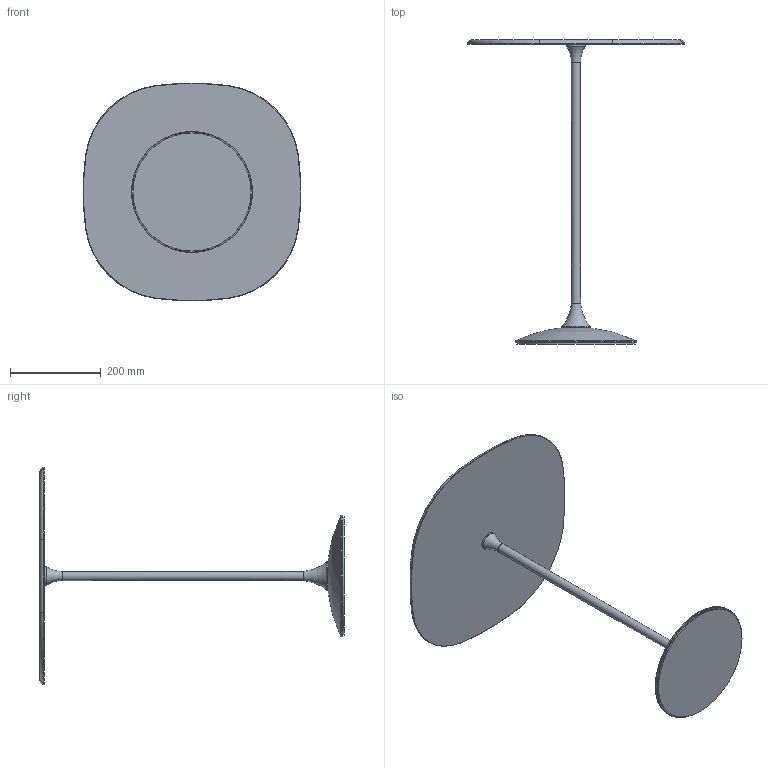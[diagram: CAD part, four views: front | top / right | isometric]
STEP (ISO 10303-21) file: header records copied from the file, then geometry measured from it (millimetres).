
FILE_DESCRIPTION((''),'2;1');
FILE_NAME('C:\AutodeskVault\AreaLavoro\Progetti\SoVeT Italia\2. Tavolini_Coffee tables\Tulip\Web file\Tulip Web\P4618.stp','2012-06-14T17:28:27',('Gianluca'),('So.Ve.T. s.r.l.'),'Autodesk Inventor 2013','Autodesk Inventor 2013','IL PROGETTO E'' DI ESCLUSIVA PROPRIETA'' DELLA SO.VE.T. srl. E'' VIETATA OGNI RIPRODUZIONE TOTALE O PARZIALE E QUALSIASI UTILIZZO NON AUTORIZZATO. ');
FILE_SCHEMA(('AUTOMOTIVE_DESIGN { 1 0 10303 214 1 1 1 1 }'));
Length unit declared in the file: millimetre
Products named in the file (1): P4618 LCTR Contorno semplificato
Bounding box: 478.8 x 670.45 x 478.8 mm (x, y, z)
Volume: 3457587 mm3; surface area: 562365.2 mm2
Topology: 1 solids, 1 shells, 40 faces, 85 edges, 50 vertices
Faces by surface type: torus 14, cone 14, plane 6, cylinder 5, bspline 1
Full cylindrical faces by diameter (mm): 20 x1, 40 x1, 60 x1, 260 x1, 267 x1
Entity records: 1066 total; most frequent: DIRECTION 196, CARTESIAN_POINT 174, ORIENTED_EDGE 124, AXIS2_PLACEMENT_3D 94, EDGE_CURVE 62, EDGE_LOOP 62, CIRCLE 54, VERTEX_POINT 45
